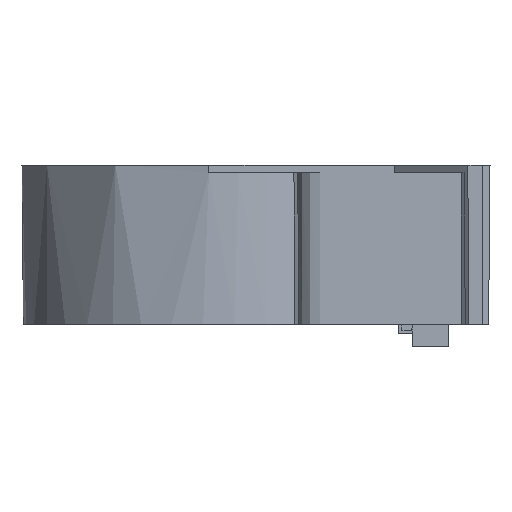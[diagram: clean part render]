
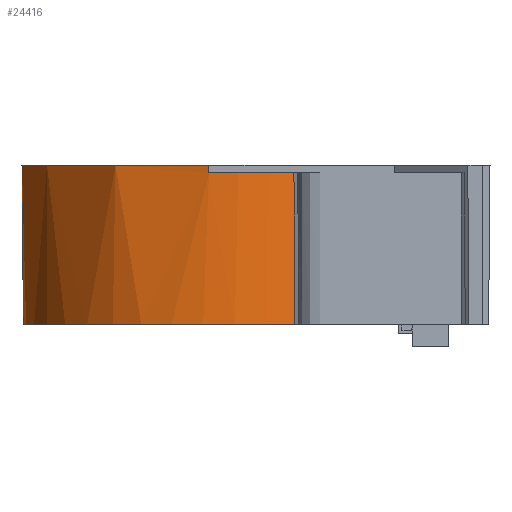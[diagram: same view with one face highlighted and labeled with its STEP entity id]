
A CAD part, left-side view. The second image highlights one B-rep face of the part: STEP entity #24416.
In plain terms, the highlighted conical face has half-angle 0.5 degrees and reference radius 35.5 mm.
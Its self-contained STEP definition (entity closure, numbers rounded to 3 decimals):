
#735=CONICAL_SURFACE('',#25837,35.5,0.5);
#1080=B_SPLINE_CURVE_WITH_KNOTS('',3,(#35107,#35108,#35109,#35110),
 .UNSPECIFIED.,.F.,.F.,(4,4),(0.195,3.095),
 .UNSPECIFIED.);
#1121=CIRCLE('',#25759,35.515);
#1143=CIRCLE('',#25833,35.768);
#1145=CIRCLE('',#25838,35.781);
#1719=FACE_OUTER_BOUND('',#3088,.T.);
#3088=EDGE_LOOP('',(#16675,#16676,#16677,#16678,#16679,#16680));
#4921=LINE('',#35053,#7796);
#4927=LINE('',#35131,#7802);
#7796=VECTOR('',#28074,30.451);
#7802=VECTOR('',#28098,1.45);
#10480=VERTEX_POINT('',#34511);
#10481=VERTEX_POINT('',#34537);
#10654=VERTEX_POINT('',#35052);
#10657=VERTEX_POINT('',#35083);
#10660=VERTEX_POINT('',#35118);
#10663=VERTEX_POINT('',#35130);
#12840=EDGE_CURVE('',#10480,#10481,#1121,.T.);
#13062=EDGE_CURVE('',#10654,#10481,#4921,.F.);
#13067=EDGE_CURVE('',#10657,#10480,#1080,.T.);
#13071=EDGE_CURVE('',#10657,#10660,#1143,.T.);
#13076=EDGE_CURVE('',#10663,#10660,#4927,.F.);
#13077=EDGE_CURVE('',#10663,#10654,#1145,.F.);
#16675=ORIENTED_EDGE('',*,*,#13067,.F.);
#16676=ORIENTED_EDGE('',*,*,#13071,.T.);
#16677=ORIENTED_EDGE('',*,*,#13076,.F.);
#16678=ORIENTED_EDGE('',*,*,#13077,.T.);
#16679=ORIENTED_EDGE('',*,*,#13062,.T.);
#16680=ORIENTED_EDGE('',*,*,#12840,.F.);
#24416=ADVANCED_FACE('',(#1719),#735,.T.);
#25759=AXIS2_PLACEMENT_3D('',#34538,#27741,#27742);
#25833=AXIS2_PLACEMENT_3D('',#35120,#28085,#28086);
#25837=AXIS2_PLACEMENT_3D('',#35129,#28096,#28097);
#25838=AXIS2_PLACEMENT_3D('',#35132,#28099,#28100);
#27741=DIRECTION('center_axis',(0.,0.,
-1.));
#27742=DIRECTION('ref_axis',(0.,1.,0.));
#28074=DIRECTION('',(0.,0.009,1.));
#28085=DIRECTION('center_axis',(0.,0.,
-1.));
#28086=DIRECTION('ref_axis',(0.,1.,0.));
#28096=DIRECTION('center_axis',(0.,0.,
1.));
#28097=DIRECTION('ref_axis',(0.,1.,0.));
#28098=DIRECTION('',(-0.009,0.,1.));
#28099=DIRECTION('center_axis',(0.,0.,
1.));
#28100=DIRECTION('ref_axis',(0.,1.,0.));
#34511=CARTESIAN_POINT('',(-34.355,-8.25,-15.223));
#34537=CARTESIAN_POINT('',(-2.891,43.737,-15.223));
#34538=CARTESIAN_POINT('Origin',(-2.891,8.221,-15.223));
#35052=CARTESIAN_POINT('',(-2.891,44.002,15.227));
#35053=CARTESIAN_POINT('',(-2.891,43.721,-16.973));
#35083=CARTESIAN_POINT('',(-34.744,-8.05,13.777));
#35107=CARTESIAN_POINT('Ctrl Pts',(-34.744,-8.05,13.777));
#35108=CARTESIAN_POINT('Ctrl Pts',(-34.617,-8.113,
4.11));
#35109=CARTESIAN_POINT('Ctrl Pts',(-34.488,-8.179,
-5.557));
#35110=CARTESIAN_POINT('Ctrl Pts',(-34.355,-8.25,
-15.223));
#35118=CARTESIAN_POINT('',(-38.659,8.221,13.777));
#35120=CARTESIAN_POINT('Origin',(-2.891,8.221,13.777));
#35129=CARTESIAN_POINT('Origin',(-2.891,8.221,-16.973));
#35130=CARTESIAN_POINT('',(-38.672,8.221,15.227));
#35131=CARTESIAN_POINT('',(-38.391,8.221,-16.973));
#35132=CARTESIAN_POINT('Origin',(-2.891,8.221,15.227));
